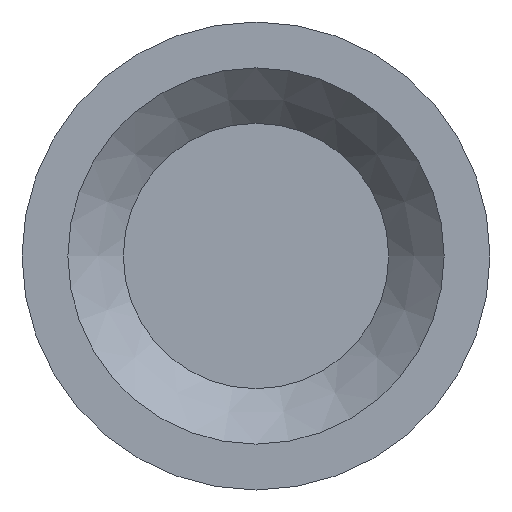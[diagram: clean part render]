
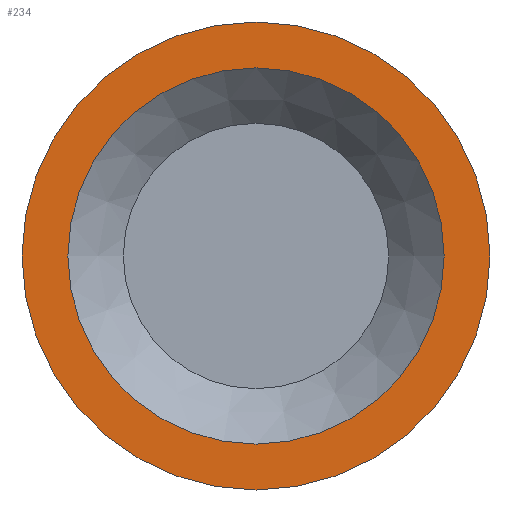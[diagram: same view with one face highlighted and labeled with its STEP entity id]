
A CAD part, left-side view. The second image highlights one B-rep face of the part: STEP entity #234.
In plain terms, the highlighted planar face has unit normal (-1, 0, 0).
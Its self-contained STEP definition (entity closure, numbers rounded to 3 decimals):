
#18=PLANE($,#270);
#37=FACE_BOUND($,#88,.T.);
#57=FACE_OUTER_BOUND($,#87,.T.);
#87=EDGE_LOOP($,(#192));
#88=EDGE_LOOP($,(#193));
#119=CIRCLE($,#269,2.553);
#120=CIRCLE($,#271,3.175);
#140=VERTEX_POINT($,#411);
#141=VERTEX_POINT($,#414);
#161=EDGE_CURVE($,#140,#140,#119,.T.);
#162=EDGE_CURVE($,#141,#141,#120,.T.);
#192=ORIENTED_EDGE($,*,*,#162,.F.);
#193=ORIENTED_EDGE($,*,*,#161,.T.);
#234=ADVANCED_FACE($,(#57,#37),#18,.T.);
#269=AXIS2_PLACEMENT_3D($,#412,#334,#335);
#270=AXIS2_PLACEMENT_3D($,#413,#336,#337);
#271=AXIS2_PLACEMENT_3D($,#415,#338,#339);
#334=DIRECTION('center_axis',(1.,0.,0.));
#335=DIRECTION('ref_axis',(0.,1.,0.));
#336=DIRECTION('center_axis',(-1.,0.,0.));
#337=DIRECTION('ref_axis',(0.,0.,1.));
#338=DIRECTION('center_axis',(1.,0.,0.));
#339=DIRECTION('ref_axis',(0.,1.,0.));
#411=CARTESIAN_POINT('',(11.96,2.553,0.));
#412=CARTESIAN_POINT('Origin',(11.96,0.,0.));
#413=CARTESIAN_POINT('Origin',(11.96,2.864,0.));
#414=CARTESIAN_POINT('',(11.96,3.175,0.));
#415=CARTESIAN_POINT('Origin',(11.96,0.,0.));
